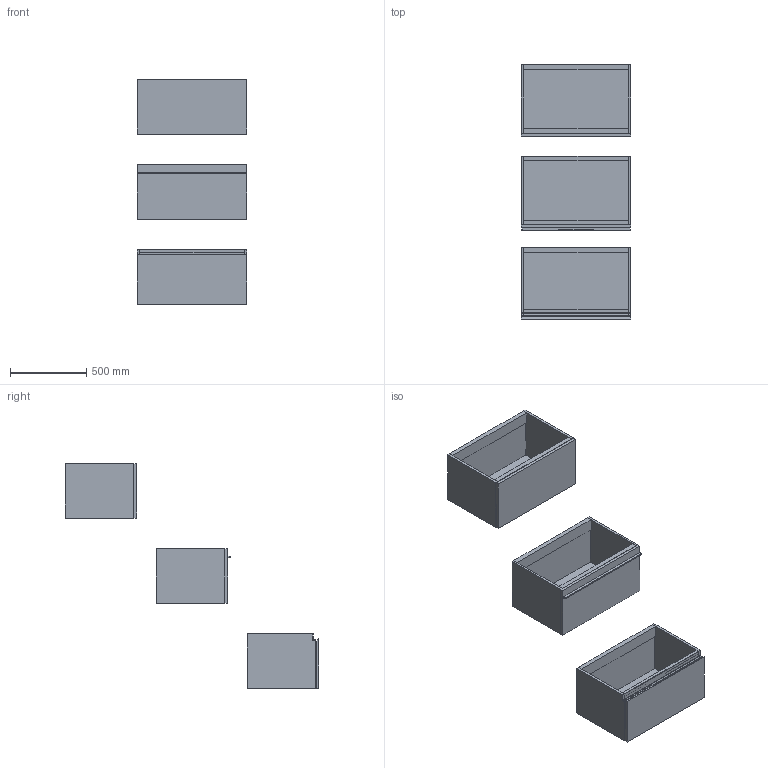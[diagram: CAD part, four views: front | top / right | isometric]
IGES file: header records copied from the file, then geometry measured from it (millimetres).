
Start section: Data from Parasolid IGES Translator 19.0.9, Copyright(c) 2006 Siemens PL M Software. All Rights Reserved.
Global section: file name: noorth-SI-H 36 D 47 W 72_8344.igs; native system: By Siemens PLM Incorporated; preprocessor: XPlus GENERIC/IGES 19.0.9; author: Noname; organization: Noname; date: 20200601.092918; units: metre
Bounding box: 720 x 1669.1 x 1480.01 mm (x, y, z)
Volume: 52526293.4 mm3; surface area: 7818518.2 mm2
Topology: 23 solids, 23 shells, 196 faces, 418 edges, 258 vertices
Faces by surface type: plane 152, extrusion 16, bspline 16, cylinder 12
